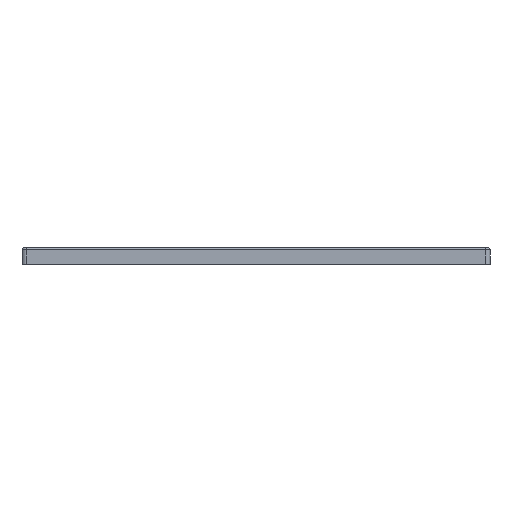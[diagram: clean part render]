
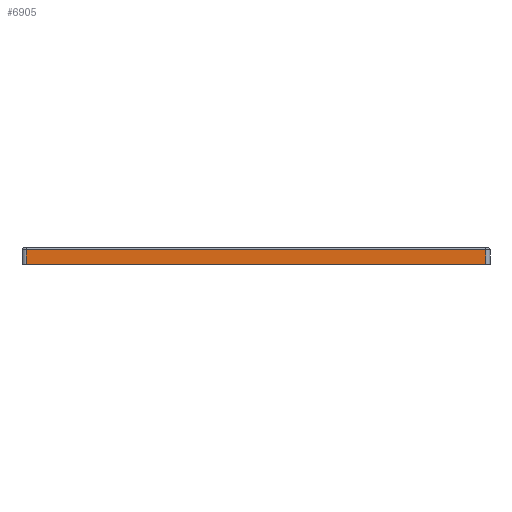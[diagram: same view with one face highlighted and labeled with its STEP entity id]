
A CAD part, front view. The second image highlights one B-rep face of the part: STEP entity #6905.
In plain terms, the highlighted planar face has unit normal (0, -1, 0).
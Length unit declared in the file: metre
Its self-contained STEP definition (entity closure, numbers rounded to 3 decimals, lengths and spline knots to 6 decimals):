
#942=ORIENTED_EDGE('',*,*,#3024,.T.);
#943=ORIENTED_EDGE('',*,*,#3025,.T.);
#944=ORIENTED_EDGE('',*,*,#3026,.T.);
#945=ORIENTED_EDGE('',*,*,#2684,.T.);
#2684=EDGE_CURVE('',#3729,#3728,#4407,.T.);
#3024=EDGE_CURVE('',#3728,#4066,#4598,.T.);
#3025=EDGE_CURVE('',#4066,#4067,#4599,.F.);
#3026=EDGE_CURVE('',#4067,#3729,#4600,.F.);
#3728=VERTEX_POINT('',#10298);
#3729=VERTEX_POINT('',#10300);
#4066=VERTEX_POINT('',#10993);
#4067=VERTEX_POINT('',#10995);
#4407=LINE('',#10299,#5103);
#4598=LINE('',#10992,#5294);
#4599=LINE('',#10994,#5295);
#4600=LINE('',#10996,#5296);
#5103=VECTOR('',#8095,1.);
#5294=VECTOR('',#8592,1.);
#5295=VECTOR('',#8593,1.);
#5296=VECTOR('',#8594,1.);
#5825=EDGE_LOOP('',(#942,#943,#944,#945));
#6289=FACE_BOUND('',#5825,.T.);
#6698=PLANE('',#7469);
#6905=ADVANCED_FACE('',(#6289),#6698,.T.);
#7469=AXIS2_PLACEMENT_3D('',#10991,#8590,#8591);
#8095=DIRECTION('',(1.,0.,0.));
#8590=DIRECTION('',(0.,-1.,0.));
#8591=DIRECTION('',(0.,0.,-1.));
#8592=DIRECTION('',(0.,0.,1.));
#8593=DIRECTION('',(1.,0.,0.));
#8594=DIRECTION('',(0.,0.,1.));
#10298=CARTESIAN_POINT('',(0.056502,-0.095344,0.01746));
#10299=CARTESIAN_POINT('',(0.000002,-0.095344,0.01746));
#10300=CARTESIAN_POINT('',(-0.056498,-0.095344,0.01746));
#10991=CARTESIAN_POINT('',(0.000002,-0.095344,0.01746));
#10992=CARTESIAN_POINT('',(0.056502,-0.095344,0.02146));
#10993=CARTESIAN_POINT('',(0.056502,-0.095344,0.02096));
#10994=CARTESIAN_POINT('',(0.000002,-0.095344,0.02096));
#10995=CARTESIAN_POINT('',(-0.056498,-0.095344,0.02096));
#10996=CARTESIAN_POINT('',(-0.056498,-0.095344,0.01746));
